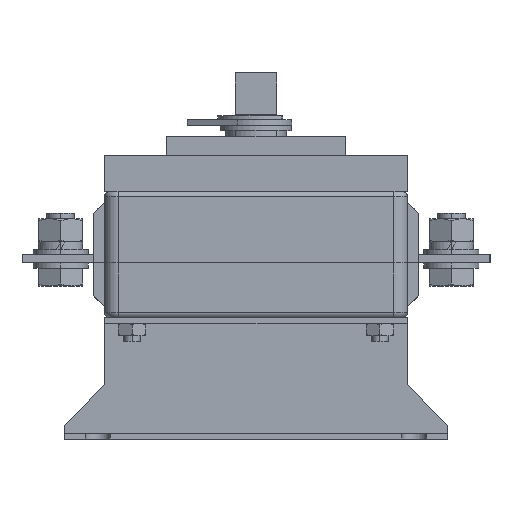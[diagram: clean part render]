
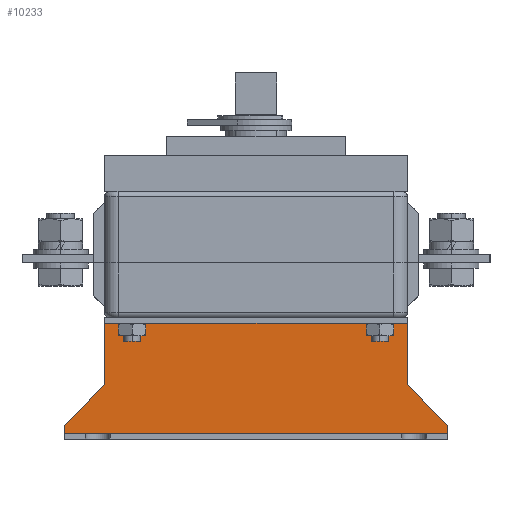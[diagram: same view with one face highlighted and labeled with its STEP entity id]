
A CAD part, left-side view. The second image highlights one B-rep face of the part: STEP entity #10233.
In plain terms, the highlighted planar face has unit normal (-1, 0, 0) as drawn and (0, 0, 1) by its records, which use the part's own axes.
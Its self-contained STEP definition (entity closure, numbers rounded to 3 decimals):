
#9584=DIRECTION('',(0.,-1.,0.));
#9585=VECTOR('',#9584,3.);
#9586=CARTESIAN_POINT('',(-69.5,5.,-7.));
#9587=LINE('',#9586,#9585);
#9601=DIRECTION('',(-0.695,-0.719,0.));
#9602=VECTOR('',#9601,20.863);
#9603=CARTESIAN_POINT('',(-55.,20.,-7.));
#9604=LINE('',#9603,#9602);
#9618=DIRECTION('',(0.,1.,0.));
#9619=VECTOR('',#9618,22.);
#9620=CARTESIAN_POINT('',(-55.,20.,-7.));
#9621=LINE('',#9620,#9619);
#9631=DIRECTION('',(0.,1.,0.));
#9632=VECTOR('',#9631,22.);
#9633=CARTESIAN_POINT('',(55.,20.,-7.));
#9634=LINE('',#9633,#9632);
#9643=DIRECTION('',(-0.695,0.719,0.));
#9644=VECTOR('',#9643,20.863);
#9645=CARTESIAN_POINT('',(69.5,5.,-7.));
#9646=LINE('',#9645,#9644);
#9660=DIRECTION('',(0.,-1.,0.));
#9661=VECTOR('',#9660,3.);
#9662=CARTESIAN_POINT('',(69.5,5.,-7.));
#9663=LINE('',#9662,#9661);
#9748=DIRECTION('',(1.,0.,0.));
#9749=VECTOR('',#9748,110.);
#9750=CARTESIAN_POINT('',(-55.,42.,-7.));
#9751=LINE('',#9750,#9749);
#9756=DIRECTION('',(1.,0.,0.));
#9757=VECTOR('',#9756,139.);
#9758=CARTESIAN_POINT('',(-69.5,2.,-7.));
#9759=LINE('',#9758,#9757);
#9922=CARTESIAN_POINT('',(69.5,2.,-7.));
#9923=VERTEX_POINT('',#9922);
#9924=CARTESIAN_POINT('',(-69.5,2.,-7.));
#9925=VERTEX_POINT('',#9924);
#9926=CARTESIAN_POINT('',(69.5,5.,-7.));
#9927=VERTEX_POINT('',#9926);
#9928=CARTESIAN_POINT('',(55.,20.,-7.));
#9929=VERTEX_POINT('',#9928);
#9930=CARTESIAN_POINT('',(-55.,20.,-7.));
#9931=VERTEX_POINT('',#9930);
#9932=CARTESIAN_POINT('',(-69.5,5.,-7.));
#9933=VERTEX_POINT('',#9932);
#9934=CARTESIAN_POINT('',(55.,42.,-7.));
#9935=VERTEX_POINT('',#9934);
#9936=CARTESIAN_POINT('',(-55.,42.,-7.));
#9937=VERTEX_POINT('',#9936);
#10217=CARTESIAN_POINT('',(-69.5,42.,-7.));
#10218=DIRECTION('',(0.,0.,-1.));
#10219=DIRECTION('',(0.,-1.,0.));
#10220=AXIS2_PLACEMENT_3D('',#10217,#10218,#10219);
#10221=PLANE('',#10220);
#10222=ORIENTED_EDGE('',*,*,#10092,.F.);
#10223=ORIENTED_EDGE('',*,*,#10110,.F.);
#10224=ORIENTED_EDGE('',*,*,#10128,.T.);
#10226=ORIENTED_EDGE('',*,*,#10225,.F.);
#10227=ORIENTED_EDGE('',*,*,#10024,.F.);
#10228=ORIENTED_EDGE('',*,*,#10042,.F.);
#10229=ORIENTED_EDGE('',*,*,#10062,.T.);
#10230=ORIENTED_EDGE('',*,*,#10199,.T.);
#10231=EDGE_LOOP('',(#10222,#10223,#10224,#10226,#10227,#10228,#10229,#10230));
#10232=FACE_OUTER_BOUND('',#10231,.F.);
#10233=ADVANCED_FACE('',(#10232),#10221,.F.);
#10024=EDGE_CURVE('',#9933,#9925,#9587,.T.);
#10042=EDGE_CURVE('',#9931,#9933,#9604,.T.);
#10062=EDGE_CURVE('',#9931,#9937,#9621,.T.);
#10092=EDGE_CURVE('',#9929,#9935,#9634,.T.);
#10110=EDGE_CURVE('',#9927,#9929,#9646,.T.);
#10128=EDGE_CURVE('',#9927,#9923,#9663,.T.);
#10199=EDGE_CURVE('',#9937,#9935,#9751,.T.);
#10225=EDGE_CURVE('',#9925,#9923,#9759,.T.);
